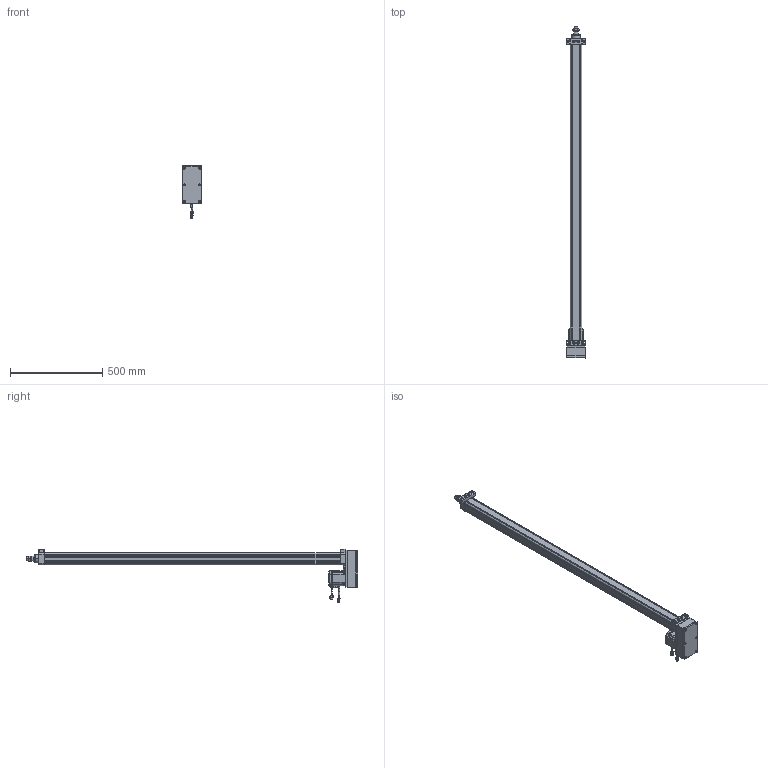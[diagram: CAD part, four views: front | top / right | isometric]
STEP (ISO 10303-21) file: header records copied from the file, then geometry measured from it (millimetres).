
FILE_DESCRIPTION((''),'2;1');
FILE_NAME('HE50-D-100-X1_ASM','2020-05-08T',('ASUS20200'),(''),'CREO PARAMETRIC BY PTC INC, 2014190','CREO PARAMETRIC BY PTC INC, 2014190','');
FILE_SCHEMA(('CONFIG_CONTROL_DESIGN'));
Products named in the file (32): HE50-D-P-001-X1; HE50-D-P-002-X1; HE50-D-P-003-X1; 6301ZZ; LGLM-M8-22; SLM-01; YZ-M6X1; HE50-P-010-X1-400W; _MHMF082L1A2; _CABLE_MOTOR_BOTTOM_05; _CABLE_MOTOR_TOP_05; _MOTOR_CONNECTOR_2; _CABLE_BRAKE_BOTTOM_05; _CABLE_BRAKE_TOP_05; _MHMF_CONNECTOR_9_PIN_A6; MHMF082L1A2M2_1_ASM; TD-6; M6X25; LM-M6X1; JX6X6X20; M6X25-DS; LM-M6-15; HE50-P-012-X1; HE50-P-013-X1; M6X60; HE50-P-015-X1; HE50-P-016-X1; M8X25; HE50-D-P-005-X1; HE50-D-P-004-X1; HE50-D-P-008-X1; HE50-D-100-X1_ASM
Assembly tree (56 placements, depth 3):
  HE50-D-100-X1_ASM
    HE50-D-P-001-X1
    HE50-D-P-002-X1
    HE50-D-P-003-X1
    6301ZZ
    LGLM-M8-22  x8
    SLM-01
    YZ-M6X1
    HE50-P-010-X1-400W
    MHMF082L1A2M2_1_ASM
      _MHMF082L1A2
      _CABLE_MOTOR_BOTTOM_05
      _CABLE_MOTOR_TOP_05
      _MOTOR_CONNECTOR_2
      _CABLE_BRAKE_BOTTOM_05
      _CABLE_BRAKE_TOP_05
      _MHMF_CONNECTOR_9_PIN_A6
    TD-6  x4
    M6X25  x4
    LM-M6X1  x5
    JX6X6X20
    M6X25-DS
    LM-M6-15
    HE50-P-012-X1
    HE50-P-013-X1
    M6X60  x6
    HE50-P-015-X1
    HE50-P-016-X1
    M8X25  x4
    HE50-D-P-005-X1
    HE50-D-P-004-X1
    HE50-D-P-008-X1
Bounding box: 105 x 1798.5 x 290.65 mm (x, y, z)
Volume: 4279351.8 mm3; surface area: 1294440.2 mm2
Topology: 55 solids, 89 shells, 3018 faces, 7249 edges, 4500 vertices
Faces by surface type: plane 1317, cylinder 815, cone 689, torus 154, sphere 42, bspline 1
Entity records: 72234 total; most frequent: CARTESIAN_POINT 13467, DIRECTION 12895, ORIENTED_EDGE 11500, EDGE_CURVE 5811, AXIS2_PLACEMENT_3D 4793, VERTEX_POINT 3641, VECTOR 3309, LINE 3309
